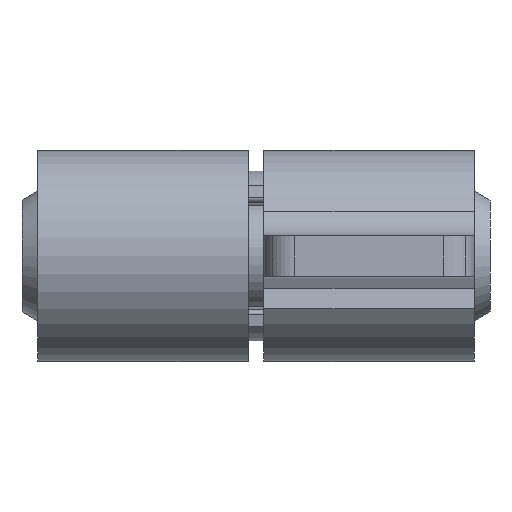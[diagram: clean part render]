
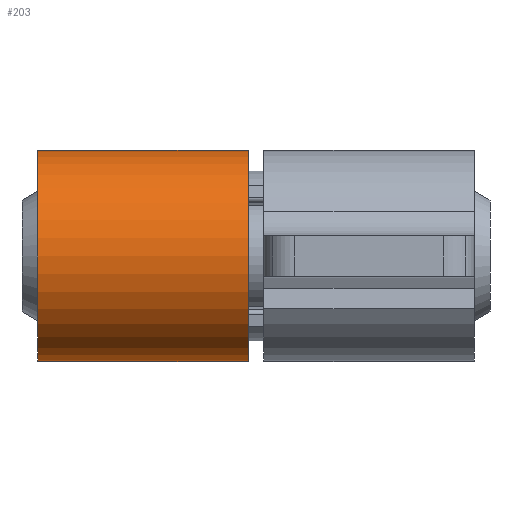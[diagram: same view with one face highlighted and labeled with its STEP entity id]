
A CAD part, front view. The second image highlights one B-rep face of the part: STEP entity #203.
In plain terms, the highlighted cylindrical face has radius 2.587 mm (diameter 5.175 mm), a partial arc.
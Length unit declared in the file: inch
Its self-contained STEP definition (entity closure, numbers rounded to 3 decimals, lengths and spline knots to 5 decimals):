
#203=ADVANCED_FACE('',(#427),#428,.T.);
#427=FACE_OUTER_BOUND('',#690,.T.);
#428=CYLINDRICAL_SURFACE('',#691,0.10187);
#690=EDGE_LOOP('',(#1156,#1157,#1158,#1159));
#691=AXIS2_PLACEMENT_3D('',#1160,#1161,#1162);
#1156=ORIENTED_EDGE('',*,*,#1535,.F.);
#1157=ORIENTED_EDGE('',*,*,#1556,.T.);
#1158=ORIENTED_EDGE('',*,*,#1637,.F.);
#1159=ORIENTED_EDGE('',*,*,#1688,.T.);
#1160=CARTESIAN_POINT('',(-3.77657,-4.5,0.));
#1161=DIRECTION('',(1.0,0.,0.));
#1162=DIRECTION('',(0.,0.,1.0));
#1535=EDGE_CURVE('',#1831,#1832,#1833,.T.);
#1556=EDGE_CURVE('',#1831,#1867,#1869,.T.);
#1637=EDGE_CURVE('',#1999,#1867,#2000,.T.);
#1688=EDGE_CURVE('',#1999,#1832,#2072,.T.);
#1831=VERTEX_POINT('',#2245);
#1832=VERTEX_POINT('',#2246);
#1833=LINE('',#2247,#2248);
#1867=VERTEX_POINT('',#2288);
#1869=CIRCLE('',#2290,0.10187);
#1999=VERTEX_POINT('',#2445);
#2000=LINE('',#2446,#2447);
#2072=CIRCLE('',#2540,0.10187);
#2245=CARTESIAN_POINT('',(-3.77657,-4.5,0.10187));
#2246=CARTESIAN_POINT('',(-3.57357,-4.5,0.10187));
#2247=CARTESIAN_POINT('',(-3.77657,-4.5,0.10187));
#2248=VECTOR('',#2707,1.0);
#2288=CARTESIAN_POINT('',(-3.77657,-4.5,-0.10187));
#2290=AXIS2_PLACEMENT_3D('',#2747,#2748,#2749);
#2445=CARTESIAN_POINT('',(-3.57357,-4.5,-0.10187));
#2446=CARTESIAN_POINT('',(-3.77657,-4.5,-0.10187));
#2447=VECTOR('',#2895,1.0);
#2540=AXIS2_PLACEMENT_3D('',#2965,#2966,#2967);
#2707=DIRECTION('',(1.0,0.,0.));
#2747=CARTESIAN_POINT('',(-3.77657,-4.5,0.));
#2748=DIRECTION('',(1.0,0.,0.));
#2749=DIRECTION('',(0.,0.,1.0));
#2895=DIRECTION('',(-1.0,0.,0.));
#2965=CARTESIAN_POINT('',(-3.57357,-4.5,0.));
#2966=DIRECTION('',(-1.0,0.,0.));
#2967=DIRECTION('',(0.,0.,1.0));
